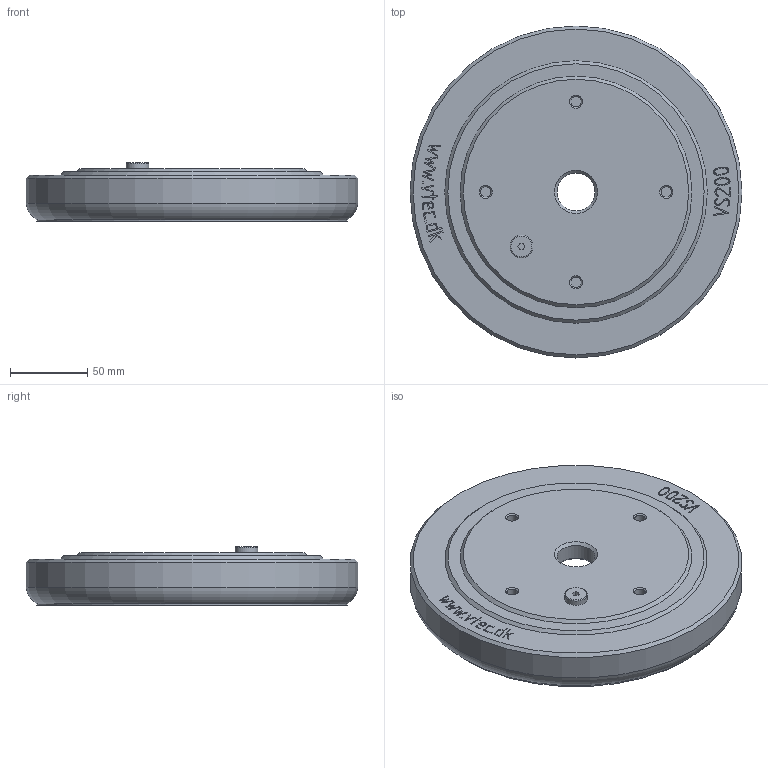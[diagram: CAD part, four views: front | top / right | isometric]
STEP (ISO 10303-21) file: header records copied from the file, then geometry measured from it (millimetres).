
FILE_DESCRIPTION( ( 'STEP AP203' ), '1' );
FILE_NAME( 'C:/撲啗紫賊-02/3D-蘋驍煎斜/Vacuum Pad/VS series/VS200-34F.stp', '2006-04-24T11:58:35', ( ' ' ), ( ' ' ), 'XStep 1.0', ' ', ' ' );
FILE_SCHEMA( ( 'CONFIG_CONTROL_DESIGN) ( )' ) );
Length unit declared in the file: metre
Products named in the file (1): 1
Bounding box: 215 x 215 x 38 mm (x, y, z)
Volume: 565657.3 mm3; surface area: 101332.5 mm2
Topology: 1 solids, 1 shells, 188 faces, 460 edges, 304 vertices
Faces by surface type: extrusion 126, plane 38, cylinder 11, cone 10, torus 3
Full cylindrical faces by diameter (mm): 6.8 x4, 14.7 x2, 24.5 x1, 185.4 x1, 199.2 x1, 201.2 x1, 215 x1
Entity records: 6532 total; most frequent: CARTESIAN_POINT 2229, ORIENTED_EDGE 854, DIRECTION 674, VECTOR 478, EDGE_CURVE 427, LINE 352, VERTEX_POINT 299, EDGE_LOOP 248
